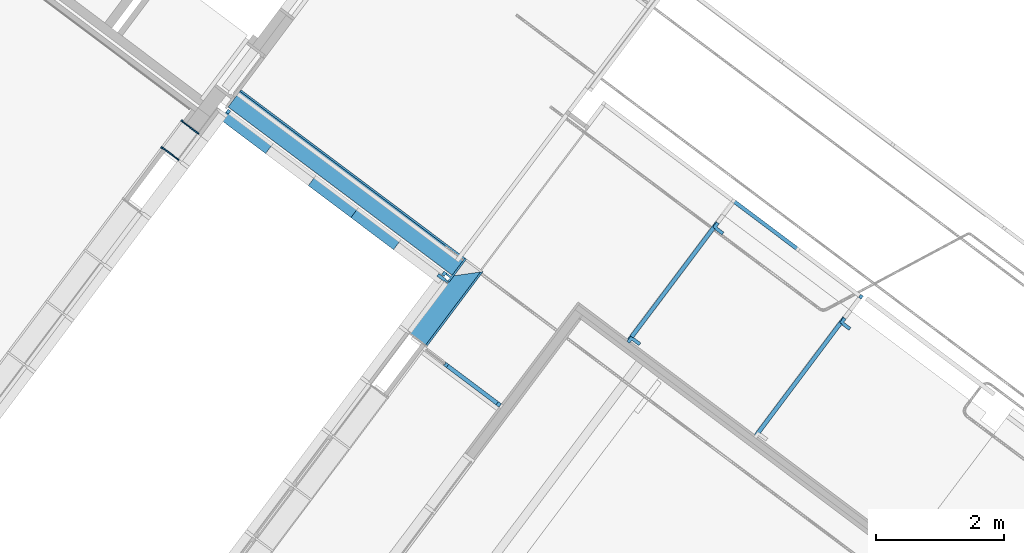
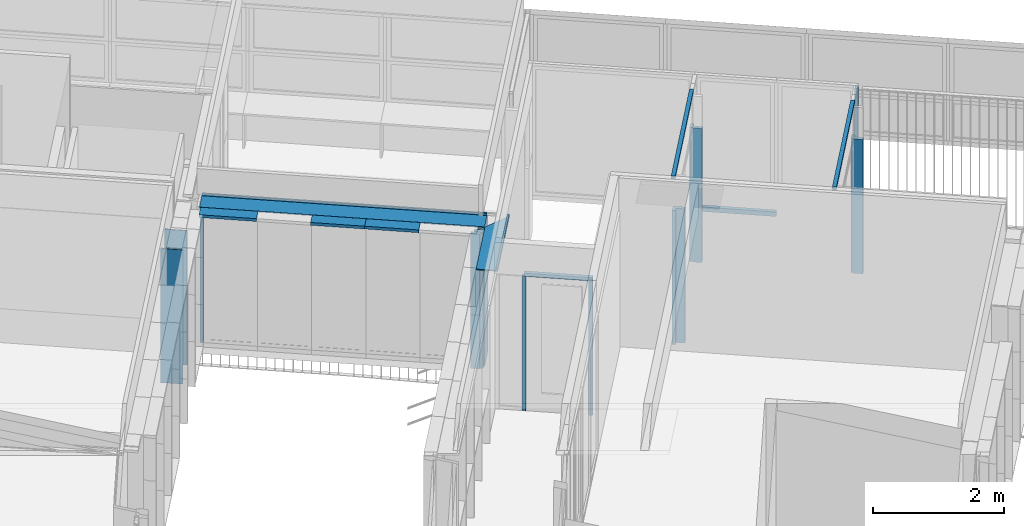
# One storey, part 69 of 243: 22 members, 9 elements without a shape of their own.
"""IFC2X3 building model written with IfcOpenShell, lengths in metres."""

from ifc_helpers import new_model, entity, si_unit, converted_unit, derived_unit, direction, frame, frame_2d, origin, place, context, subcontext, project, spatial, polyline, rectangle, outline, extrude, clip, halfspace, source, transform, mapped, material, type_object, type_shapes, element, aggregate, save


model = new_model("IFC2X3")

# Units and contexts
model_context = context("Model", 3, precision=1e-05, world=origin(), true_north=direction((6.123031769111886e-17, 1.0)))
body_context = subcontext(model_context, "Body", "Model", "MODEL_VIEW")
ifc_project = project(units=[si_unit("LENGTHUNIT", "METRE"), si_unit("AREAUNIT", "SQUARE_METRE"), si_unit("VOLUMEUNIT", "CUBIC_METRE"), converted_unit("PLANEANGLEUNIT", "DEGREE", entity("IfcRatioMeasure", 0.017453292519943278), si_unit("PLANEANGLEUNIT", "RADIAN"), dimensions=[0, 0, 0, 0, 0, 0, 0]), si_unit("MASSUNIT", "GRAM", prefix="KILO"), derived_unit("MASSDENSITYUNIT", [(si_unit("MASSUNIT", "GRAM", prefix="KILO"), 1), (si_unit("LENGTHUNIT", "METRE"), -3)]), derived_unit("IONCONCENTRATIONUNIT", [(si_unit("MASSUNIT", "GRAM", prefix="KILO"), 1), (si_unit("LENGTHUNIT", "METRE"), -3)]), derived_unit("MOMENTOFINERTIAUNIT", [(si_unit("LENGTHUNIT", "METRE"), 4)]), si_unit("TIMEUNIT", "SECOND"), si_unit("FREQUENCYUNIT", "HERTZ"), si_unit("THERMODYNAMICTEMPERATUREUNIT", "DEGREE_CELSIUS"), derived_unit("THERMALTRANSMITTANCEUNIT", [(si_unit("MASSUNIT", "GRAM", prefix="KILO"), 1), (si_unit("THERMODYNAMICTEMPERATUREUNIT", "KELVIN"), -1), (si_unit("TIMEUNIT", "SECOND"), -3)]), derived_unit("THERMALCONDUCTANCEUNIT", [(si_unit("MASSUNIT", "GRAM", prefix="KILO"), 1), (si_unit("THERMODYNAMICTEMPERATUREUNIT", "KELVIN"), -1), (si_unit("TIMEUNIT", "SECOND"), -3), (si_unit("LENGTHUNIT", "METRE"), 1)]), derived_unit("VOLUMETRICFLOWRATEUNIT", [(si_unit("LENGTHUNIT", "METRE"), 3), (si_unit("TIMEUNIT", "SECOND"), -1)]), derived_unit("MASSFLOWRATEUNIT", [(si_unit("MASSUNIT", "GRAM", prefix="KILO"), 1), (si_unit("TIMEUNIT", "SECOND"), -1)]), derived_unit("ROTATIONALFREQUENCYUNIT", [(si_unit("TIMEUNIT", "SECOND"), -1)]), si_unit("ELECTRICCURRENTUNIT", "AMPERE"), si_unit("ELECTRICVOLTAGEUNIT", "VOLT"), si_unit("POWERUNIT", "WATT"), si_unit("FORCEUNIT", "NEWTON", prefix="KILO"), si_unit("ILLUMINANCEUNIT", "LUX"), si_unit("LUMINOUSFLUXUNIT", "LUMEN"), si_unit("LUMINOUSINTENSITYUNIT", "CANDELA"), derived_unit("USERDEFINED", [(si_unit("MASSUNIT", "GRAM", prefix="KILO"), -1), (si_unit("LENGTHUNIT", "METRE"), -2), (si_unit("TIMEUNIT", "SECOND"), 3), (si_unit("LUMINOUSFLUXUNIT", "LUMEN"), 1)]), derived_unit("USERDEFINED", [(si_unit("MASSUNIT", "GRAM", prefix="KILO"), 1), (si_unit("TIMEUNIT", "SECOND"), -3), (si_unit("LENGTHUNIT", "METRE"), 3), (si_unit("ELECTRICCURRENTUNIT", "AMPERE"), -2)]), derived_unit("SOUNDPOWERUNIT", [(si_unit("MASSUNIT", "GRAM", prefix="KILO"), 1), (si_unit("TIMEUNIT", "SECOND"), -3), (si_unit("LENGTHUNIT", "METRE"), 2)]), derived_unit("SOUNDPRESSUREUNIT", [(si_unit("MASSUNIT", "GRAM", prefix="KILO"), 1), (si_unit("LENGTHUNIT", "METRE"), -1), (si_unit("TIMEUNIT", "SECOND"), -2)]), derived_unit("LINEARVELOCITYUNIT", [(si_unit("LENGTHUNIT", "METRE"), 1), (si_unit("TIMEUNIT", "SECOND"), -1)]), si_unit("PRESSUREUNIT", "PASCAL"), derived_unit("USERDEFINED", [(si_unit("MASSUNIT", "GRAM", prefix="KILO"), 1), (si_unit("LENGTHUNIT", "METRE"), -2), (si_unit("TIMEUNIT", "SECOND"), -2)]), derived_unit("LINEARFORCEUNIT", [(si_unit("MASSUNIT", "GRAM", prefix="KILO"), 1), (si_unit("TIMEUNIT", "SECOND"), -2)]), derived_unit("PLANARFORCEUNIT", [(si_unit("MASSUNIT", "GRAM", prefix="KILO"), 1), (si_unit("LENGTHUNIT", "METRE"), -1), (si_unit("TIMEUNIT", "SECOND"), -2)]), derived_unit("SPECIFICHEATCAPACITYUNIT", [(si_unit("THERMODYNAMICTEMPERATUREUNIT", "KELVIN"), -1), (si_unit("LENGTHUNIT", "METRE"), 2), (si_unit("TIMEUNIT", "SECOND"), -2)]), derived_unit("HEATINGVALUEUNIT", [(si_unit("LENGTHUNIT", "METRE"), 2), (si_unit("TIMEUNIT", "SECOND"), -2)]), derived_unit("VAPORPERMEABILITYUNIT", [(si_unit("LENGTHUNIT", "METRE"), -1), (si_unit("TIMEUNIT", "SECOND"), 1)]), derived_unit("DYNAMICVISCOSITYUNIT", [(si_unit("MASSUNIT", "GRAM", prefix="KILO"), 1), (si_unit("TIMEUNIT", "SECOND"), -1), (si_unit("LENGTHUNIT", "METRE"), -1)]), derived_unit("THERMALEXPANSIONCOEFFICIENTUNIT", [(si_unit("THERMODYNAMICTEMPERATUREUNIT", "KELVIN"), -1)]), derived_unit("MODULUSOFELASTICITYUNIT", [(si_unit("MASSUNIT", "GRAM", prefix="KILO"), 1), (si_unit("LENGTHUNIT", "METRE"), -1), (si_unit("TIMEUNIT", "SECOND"), -2)]), derived_unit("ISOTHERMALMOISTURECAPACITYUNIT", [(si_unit("LENGTHUNIT", "METRE"), 3), (si_unit("MASSUNIT", "GRAM", prefix="KILO"), -1)]), derived_unit("MOISTUREDIFFUSIVITYUNIT", [(si_unit("TIMEUNIT", "SECOND"), -1), (si_unit("LENGTHUNIT", "METRE"), 2)])], contexts=[model_context])

# Site, building, storey
site_placement = place(None, frame((0.0, 0.0, 235.0), z_axis=(0.0, 0.0, 1.0), x_axis=(-0.7996477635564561, 0.6004693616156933, 0.0)))
site = spatial("IfcSite", under=ifc_project, at=site_placement, Name="Default", CompositionType="ELEMENT")
building_placement = place(site_placement, origin())
building = spatial("IfcBuilding", under=site, at=building_placement, CompositionType="ELEMENT")
storey_placement = place(building_placement, origin())
storey = spatial("IfcBuildingStorey", under=building, at=storey_placement, Name="P0- Escola", CompositionType="ELEMENT", Elevation=0.0)

# Curtain wall, members
curtain_wall_type_1 = type_object("IfcCurtainWallType", Name="Muro cortina:MC- INT- k7- Aules infantil", PredefinedType="NOTDEFINED")
curtain_wall_1_placement = place(storey_placement, origin())
curtain_wall_1 = element("IfcCurtainWall", 1, at=curtain_wall_1_placement, inside=storey, type_object=curtain_wall_type_1, Name="Muro cortina:MC- INT- k7- Aules infantil", ObjectType="Muro cortina:MC- INT- k7- Aules infantil")
ifc_material_1 = material(Name="_Fusta massisa- T1")
member_type_1 = type_object("IfcMemberType", Name="Montante rectangular:MC- Fusta- 35x3 cm- Pati aules- Remat esquerra", PredefinedType="MULLION", material=ifc_material_1)
shared_shape_1 = source(origin(), body_context, "Body", "SweptSolid", [
    extrude(outline(polyline([(0.09500000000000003, -0.013333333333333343), (0.12500000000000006, -0.013333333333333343), (0.12500000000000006, 0.01666666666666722), (-0.22000000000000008, 0.016666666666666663), (-0.22000000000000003, -0.0033333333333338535), (0.09499999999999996, -0.003333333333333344), (0.09500000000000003, -0.013333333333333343)])), frame((-0.0016666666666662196, 0.03000000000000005, -2.504999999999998), z_axis=(0.0, 0.0, 1.0), x_axis=(0.0, -1.0, 0.0)), (0.0, 0.0, 1.0), 2.5049999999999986),
])
type_shapes(member_type_1, [shared_shape_1])
member_1_placement = place(curtain_wall_1_placement, frame((41.345147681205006, -35.415191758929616, 0.0), z_axis=(0.0, 0.0, -1.0), x_axis=(0.0, -1.0, 0.0)))
member_1 = element("IfcMember", 2, at=member_1_placement, type_object=member_type_1, material=ifc_material_1, Name="Montante rectangular:MC- Fusta- 35x3 cm- Pati aules- Remat esquerra", ObjectType="Montante rectangular:MC- Fusta- 35x3 cm- Pati aules- Remat esquerra", context=body_context, shape_type="MappedRepresentation", body=[
    mapped(shared_shape_1, transform((0.0, 0.0, 0.0), scale=1.0)),
])
member_type_2 = type_object("IfcMemberType", Name="Montante rectangular:MC- Fusta- 35x3 cm- Pati aules- Remat dreta", PredefinedType="MULLION", material=ifc_material_1)
shared_shape_2 = source(origin(), body_context, "Body", "SweptSolid", [
    extrude(outline(polyline([(-0.22000000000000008, -0.01666666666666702), (0.12500000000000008, -0.01666666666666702), (0.12500000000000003, 0.013333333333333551), (0.09500000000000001, 0.013333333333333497), (0.09499999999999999, 0.003333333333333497), (-0.22, 0.003333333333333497), (-0.22000000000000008, -0.01666666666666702)])), frame((-0.013333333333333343, 0.030000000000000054, -2.504999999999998), z_axis=(0.0, 0.0, 1.0), x_axis=(0.0, -1.0, 0.0)), (0.0, 0.0, 1.0), 2.5049999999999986),
])
type_shapes(member_type_2, [shared_shape_2])
member_2_placement = place(curtain_wall_1_placement, frame((41.345147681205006, -35.95318997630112, 0.0), z_axis=(0.0, 0.0, -1.0), x_axis=(0.0, -1.0, 0.0)))
member_2 = element("IfcMember", 3, at=member_2_placement, type_object=member_type_2, material=ifc_material_1, Name="Montante rectangular:MC- Fusta- 35x3 cm- Pati aules- Remat dreta", ObjectType="Montante rectangular:MC- Fusta- 35x3 cm- Pati aules- Remat dreta", context=body_context, shape_type="MappedRepresentation", body=[
    mapped(shared_shape_2, transform((0.0, 0.0, 0.0), scale=1.0)),
])
aggregate(curtain_wall_1, [member_1, member_2])

# Curtain wall, member
curtain_wall_type_2 = type_object("IfcCurtainWallType", Name="Muro cortina:MC- INT- k2", PredefinedType="NOTDEFINED")
curtain_wall_2_placement = place(storey_placement, origin())
curtain_wall_2 = element("IfcCurtainWall", 4, at=curtain_wall_2_placement, inside=storey, type_object=curtain_wall_type_2, Name="Muro cortina:MC- INT- k2", ObjectType="Muro cortina:MC- INT- k2")
member_type_3 = type_object("IfcMemberType", Name="Montante rectangular:MC- Fusta- 35x3 cm- Pati aules- Remat superior", PredefinedType="MULLION", material=ifc_material_1)
shared_shape_3 = source(origin(), body_context, "Body", "SweptSolid", [
    clip(extrude(outline(polyline([(-0.12166666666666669, -0.02666666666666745), (0.21333333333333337, -0.02666666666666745), (0.21333333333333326, -0.006666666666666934), (-0.09166666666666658, -0.006666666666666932), (-0.0916666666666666, 0.03333333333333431), (-0.12166666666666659, 0.03333333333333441), (-0.12166666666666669, -0.02666666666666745)])), frame((-0.033333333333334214, -0.026666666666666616, -1.3699981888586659), z_axis=(0.0, 0.0, 1.0), x_axis=(0.0, -1.0, 0.0)), (0.0, 0.0, 1.0), 1.4649981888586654), halfspace(frame((0.3048, 0.0, 0.0), z_axis=(0.0, -0.7071067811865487, 0.7071067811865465), x_axis=(0.0, -0.7071067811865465, -0.7071067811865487)), False)),
])
type_shapes(member_type_3, [shared_shape_3])
member_3_placement = place(curtain_wall_2_placement, frame((36.34514768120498, -36.78518994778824, 2.565), z_axis=(0.0, -1.0, 0.0), x_axis=(0.0, 0.0, 1.0)))
member_3 = element("IfcMember", 5, at=member_3_placement, type_object=member_type_3, material=ifc_material_1, Name="Montante rectangular:MC- Fusta- 35x3 cm- Pati aules- Remat superior", ObjectType="Montante rectangular:MC- Fusta- 35x3 cm- Pati aules- Remat superior", context=body_context, shape_type="MappedRepresentation", body=[
    mapped(shared_shape_3, transform((0.0, 0.0, 0.0), scale=1.0)),
])
aggregate(curtain_wall_2, [member_3])

# Curtain wall, members
curtain_wall_type_3 = type_object("IfcCurtainWallType", PredefinedType="NOTDEFINED")
curtain_wall_3_placement = place(storey_placement, origin())
curtain_wall_3 = element("IfcCurtainWall", 6, at=curtain_wall_3_placement, inside=storey, type_object=curtain_wall_type_3)
ifc_material_2 = material(Name="_Alumini- T1- Perfil")
member_type_4 = type_object("IfcMemberType", Name="Montante rectangular:MC- Alu- 50x60 cm- Fa pista- Centre", PredefinedType="MULLION", material=ifc_material_2)
shared_shape_4 = source(origin(), body_context, "Body", "SweptSolid", [
    extrude(rectangle(XDim=0.0600000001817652, YDim=0.05, at=frame_2d((5.204170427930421e-18, 0.0), x_axis=(1.0, 0.0))), frame((-0.025, 0.030000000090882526, -2.4150000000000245), z_axis=(0.0, 0.0, 1.0), x_axis=(0.0, -1.0, 0.0)), (0.0, 0.0, 1.0), 2.4150000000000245),
])
type_shapes(member_type_4, [shared_shape_4])
member_4_placement = place(curtain_wall_3_placement, frame((31.270143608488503, -40.14019175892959, 0.6849999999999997), z_axis=(0.0, 0.0, -1.0), x_axis=(-1.0, 0.0, 0.0)))
member_4 = element("IfcMember", 7, at=member_4_placement, type_object=member_type_4, material=ifc_material_2, Name="Montante rectangular:MC- Alu- 50x60 cm- Fa pista- Centre", ObjectType="Montante rectangular:MC- Alu- 50x60 cm- Fa pista- Centre", context=body_context, shape_type="MappedRepresentation", body=[
    mapped(shared_shape_4, transform((0.0, 0.0, 0.0), scale=1.0)),
])
member_type_5 = type_object("IfcMemberType", Name="Montante rectangular:MC- Alu- 52x80 cm- Fa pista- inferior", PredefinedType="MULLION", material=ifc_material_2)
shared_shape_5 = source(origin(), body_context, "Body", "SweptSolid", [
    extrude(rectangle(XDim=0.06000000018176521, YDim=0.08500000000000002, at=frame_2d((-5.204170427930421e-18, -6.938893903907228e-18), x_axis=(1.0, 0.0))), frame((-0.0425, 0.030000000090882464, -1.2575), z_axis=(0.0, 0.0, 1.0), x_axis=(0.0, -1.0, 0.0)), (0.0, 0.0, 1.0), 1.2575),
])
type_shapes(member_type_5, [shared_shape_5])
member_5_placement = place(curtain_wall_3_placement, frame((33.785143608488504, -40.14019175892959, 0.5999999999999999), z_axis=(1.0, 0.0, 0.0), x_axis=(0.0, 0.0, -1.0)))
member_5 = element("IfcMember", 8, at=member_5_placement, type_object=member_type_5, material=ifc_material_2, Name="Montante rectangular:MC- Alu- 52x80 cm- Fa pista- inferior", ObjectType="Montante rectangular:MC- Alu- 52x80 cm- Fa pista- inferior", context=body_context, shape_type="MappedRepresentation", body=[
    mapped(shared_shape_5, transform((0.0, 0.0, 0.0), scale=1.0)),
])
aggregate(curtain_wall_3, [member_4, member_5])

# Curtain wall, member
curtain_wall_type_4 = type_object("IfcCurtainWallType", PredefinedType="NOTDEFINED")
curtain_wall_4_placement = place(storey_placement, origin())
curtain_wall_4 = element("IfcCurtainWall", 9, at=curtain_wall_4_placement, inside=storey, type_object=curtain_wall_type_4)
member_type_6 = type_object("IfcMemberType", Name="Montante rectangular:MC- Alu- 65x52,5 cm- Fa Porxo- Centre", PredefinedType="MULLION", material=ifc_material_2)
shared_shape_6 = source(origin(), body_context, "Body", "SweptSolid", [
    extrude(rectangle(XDim=0.06500000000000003, YDim=0.053000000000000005, at=frame_2d((6.938893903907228e-18, 3.469446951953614e-18), x_axis=(1.0, 0.0))), frame((-0.026500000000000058, 0.032499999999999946, -2.333999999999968), z_axis=(0.0, 0.0, 1.0), x_axis=(0.0, -1.0, 0.0)), (0.0, 0.0, 1.0), 2.333999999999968),
])
type_shapes(member_type_6, [shared_shape_6])
member_6_placement = place(curtain_wall_4_placement, frame((31.271147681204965, -37.35619175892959, 3.150000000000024), z_axis=(0.0, 1.0, 0.0), x_axis=(0.0, 0.0, 1.0)))
member_6 = element("IfcMember", 10, at=member_6_placement, type_object=member_type_6, material=ifc_material_2, Name="Montante rectangular:MC- Alu- 65x52,5 cm- Fa Porxo- Centre", ObjectType="Montante rectangular:MC- Alu- 65x52,5 cm- Fa Porxo- Centre", context=body_context, shape_type="MappedRepresentation", body=[
    mapped(shared_shape_6, transform((0.0, 0.0, 0.0), scale=1.0)),
])

curtain_wall_5_placement = place(storey_placement, origin())
curtain_wall_5 = element("IfcCurtainWall", 11, at=curtain_wall_5_placement, inside=storey, type_object=curtain_wall_type_4)
member_type_7 = type_object("IfcMemberType", Name="Montante rectangular:MC- Alu- 140x52,5 cm- Porta- dreta", PredefinedType="MULLION", material=ifc_material_2)
shared_shape_7 = source(origin(), body_context, "Body", "SweptSolid", [
    extrude(outline(polyline([(-0.022000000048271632, -0.04406250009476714), (0.11699999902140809, -0.04406250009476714), (0.11699999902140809, 0.008437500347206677), (-0.02199999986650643, 0.008437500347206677), (-0.021999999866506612, 0.06843750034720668), (-0.07299999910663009, 0.0684375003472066), (-0.07299999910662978, -0.03281250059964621), (-0.022000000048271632, -0.032812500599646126), (-0.022000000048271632, -0.04406250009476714)])), frame((-0.0684375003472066, -0.022999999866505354, -2.5050000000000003), z_axis=(0.0, 0.0, 1.0), x_axis=(0.0, -1.0, 0.0)), (0.0, 0.0, 1.0), 2.5050000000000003),
])
type_shapes(member_type_7, [shared_shape_7])
member_7_placement = place(curtain_wall_5_placement, frame((33.75114768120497, -37.356191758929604, 0.0), z_axis=(0.0, 0.0, -1.0), x_axis=(0.0, 1.0, 0.0)))
member_7 = element("IfcMember", 12, at=member_7_placement, type_object=member_type_7, material=ifc_material_2, Name="Montante rectangular:MC- Alu- 140x52,5 cm- Porta- dreta", ObjectType="Montante rectangular:MC- Alu- 140x52,5 cm- Porta- dreta", context=body_context, shape_type="MappedRepresentation", body=[
    mapped(shared_shape_7, transform((0.0, 0.0, 0.0), scale=1.0)),
])

# Member
member_type_8 = type_object("IfcMemberType", Name="Montante rectangular:MC- Alu- 140x52,5 cm- Porta- Esquerra", PredefinedType="MULLION", material=ifc_material_2)
shared_shape_8 = source(origin(), body_context, "Body", "SweptSolid", [
    extrude(outline(polyline([(-0.022000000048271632, -0.04406250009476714), (0.11699999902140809, -0.04406250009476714), (0.11699999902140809, 0.008437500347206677), (-0.02199999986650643, 0.008437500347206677), (-0.021999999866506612, 0.06843750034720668), (-0.07299999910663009, 0.0684375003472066), (-0.07299999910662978, -0.03281250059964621), (-0.022000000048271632, -0.032812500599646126), (-0.022000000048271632, -0.04406250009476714)])), frame((-0.0684375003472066, -0.022999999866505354, -2.5050000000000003), z_axis=(0.0, 0.0, 1.0), x_axis=(0.0, -1.0, 0.0)), (0.0, 0.0, 1.0), 2.5050000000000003),
])
type_shapes(member_type_8, [shared_shape_8])
member_8_placement = place(curtain_wall_4_placement, frame((31.271147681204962, -39.69019175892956, 2.5050000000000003), z_axis=(0.0, 0.0, 1.0), x_axis=(0.0, -1.0, 0.0)))
member_8 = element("IfcMember", 13, at=member_8_placement, type_object=member_type_8, material=ifc_material_2, Name="Montante rectangular:MC- Alu- 140x52,5 cm- Porta- Esquerra", ObjectType="Montante rectangular:MC- Alu- 140x52,5 cm- Porta- Esquerra", context=body_context, shape_type="MappedRepresentation", body=[
    mapped(shared_shape_8, transform((0.0, 0.0, 0.0), scale=1.0)),
])

aggregate(curtain_wall_4, [member_6, member_8])

member_9_placement = place(curtain_wall_5_placement, frame((33.75114768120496, -39.69019175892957, 2.5050000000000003), z_axis=(0.0, 0.0, 1.0), x_axis=(0.0, -1.0, 0.0)))
member_9 = element("IfcMember", 14, at=member_9_placement, type_object=member_type_8, material=ifc_material_2, Name="Montante rectangular:MC- Alu- 140x52,5 cm- Porta- Esquerra", ObjectType="Montante rectangular:MC- Alu- 140x52,5 cm- Porta- Esquerra", context=body_context, shape_type="MappedRepresentation", body=[
    mapped(shared_shape_8, transform((0.0, 0.0, 0.0), scale=1.0)),
])

member_type_9 = type_object("IfcMemberType", Name="Montante rectangular:MC- Alu- 65x52,5 cm- Fa Porxo- Centre", PredefinedType="MULLION", material=ifc_material_2)
shared_shape_9 = source(origin(), body_context, "Body", "SweptSolid", [
    extrude(rectangle(XDim=0.06500000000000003, YDim=0.053000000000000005, at=frame_2d((6.938893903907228e-18, 3.469446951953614e-18), x_axis=(1.0, 0.0))), frame((-0.026500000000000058, 0.032499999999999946, -2.333999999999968), z_axis=(0.0, 0.0, 1.0), x_axis=(0.0, -1.0, 0.0)), (0.0, 0.0, 1.0), 2.333999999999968),
])
type_shapes(member_type_9, [shared_shape_9])
member_10_placement = place(curtain_wall_5_placement, frame((33.75114768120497, -37.356191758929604, 3.150000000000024), z_axis=(0.0, 1.0, 0.0), x_axis=(0.0, 0.0, 1.0)))
member_10 = element("IfcMember", 15, at=member_10_placement, type_object=member_type_9, material=ifc_material_2, Name="Montante rectangular:MC- Alu- 65x52,5 cm- Fa Porxo- Centre", ObjectType="Montante rectangular:MC- Alu- 65x52,5 cm- Fa Porxo- Centre", context=body_context, shape_type="MappedRepresentation", body=[
    mapped(shared_shape_9, transform((0.0, 0.0, 0.0), scale=1.0)),
])

aggregate(curtain_wall_5, [member_10, member_7, member_9])

# Curtain wall, members
curtain_wall_type_5 = type_object("IfcCurtainWallType", Name="Muro cortina:MC- EXT- MC5", PredefinedType="NOTDEFINED")
curtain_wall_6_placement = place(storey_placement, origin())
curtain_wall_6 = element("IfcCurtainWall", 16, at=curtain_wall_6_placement, inside=storey, type_object=curtain_wall_type_5, Name="Muro cortina:MC- EXT- MC5", ObjectType="Muro cortina:MC- EXT- MC5")
member_type_10 = type_object("IfcMemberType", Name="Montante rectangular:MC- Alu- 140x52,5 cm- Fa patis- Centre", PredefinedType="MULLION", material=ifc_material_2)
shared_shape_10 = source(origin(), body_context, "Body", "SweptSolid", [
    extrude(outline(polyline([(-0.021999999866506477, -0.026250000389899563), (0.11699999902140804, -0.026250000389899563), (0.11699999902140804, 0.026250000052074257), (-0.02200000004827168, 0.026250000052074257), (-0.02200000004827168, 0.015000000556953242), (-0.07299999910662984, 0.015000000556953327), (-0.07299999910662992, -0.015000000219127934), (-0.021999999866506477, -0.015000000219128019), (-0.021999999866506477, -0.026250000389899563)])), frame((-0.026250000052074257, -0.022999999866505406, -1.0), z_axis=(0.0, 0.0, 1.0), x_axis=(0.0, -1.0, 0.0)), (0.0, 0.0, 1.0), 1.0),
])
type_shapes(member_type_10, [shared_shape_10])
member_11_placement = place(curtain_wall_6_placement, frame((36.64514768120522, -36.44138994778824, -0.02), z_axis=(0.0, 0.0, -1.0), x_axis=(0.0, -1.0, 0.0)))
member_11 = element("IfcMember", 17, at=member_11_placement, type_object=member_type_10, material=ifc_material_2, Name="Montante rectangular:MC- Alu- 140x52,5 cm- Fa patis- Centre", ObjectType="Montante rectangular:MC- Alu- 140x52,5 cm- Fa patis- Centre", context=body_context, shape_type="MappedRepresentation", body=[
    mapped(shared_shape_10, transform((0.0, 0.0, 0.0), scale=1.0)),
])
member_type_11 = type_object("IfcMemberType", Name="Montante rectangular:MC- Alu- 140x52,5 cm- Fa patis- Centre", PredefinedType="MULLION", material=ifc_material_2)
shared_shape_11 = source(origin(), body_context, "Body", "SweptSolid", [
    extrude(outline(polyline([(-0.021999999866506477, -0.026250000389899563), (0.11699999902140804, -0.026250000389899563), (0.11699999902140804, 0.026250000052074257), (-0.02200000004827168, 0.026250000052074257), (-0.02200000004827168, 0.015000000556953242), (-0.07299999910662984, 0.015000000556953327), (-0.07299999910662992, -0.015000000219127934), (-0.021999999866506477, -0.015000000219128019), (-0.021999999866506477, -0.026250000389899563)])), frame((-0.026250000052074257, -0.022999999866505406, -1.5124999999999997), z_axis=(0.0, 0.0, 1.0), x_axis=(0.0, -1.0, 0.0)), (0.0, 0.0, 1.0), 1.5124999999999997),
])
type_shapes(member_type_11, [shared_shape_11])
member_12_placement = place(curtain_wall_6_placement, frame((36.64514768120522, -36.44138994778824, 0.98), z_axis=(0.0, 0.0, -1.0), x_axis=(0.0, -1.0, 0.0)))
member_12 = element("IfcMember", 18, at=member_12_placement, type_object=member_type_11, material=ifc_material_2, Name="Montante rectangular:MC- Alu- 140x52,5 cm- Fa patis- Centre", ObjectType="Montante rectangular:MC- Alu- 140x52,5 cm- Fa patis- Centre", context=body_context, shape_type="MappedRepresentation", body=[
    mapped(shared_shape_11, transform((0.0, 0.0, 0.0), scale=1.0)),
])
aggregate(curtain_wall_6, [member_11, member_12])

curtain_wall_type_6 = type_object("IfcCurtainWallType", Name="Muro cortina:MC- INT- C2", PredefinedType="NOTDEFINED")
curtain_wall_7_placement = place(storey_placement, origin())
curtain_wall_7 = element("IfcCurtainWall", 19, at=curtain_wall_7_placement, inside=storey, type_object=curtain_wall_type_6, Name="Muro cortina:MC- INT- C2", ObjectType="Muro cortina:MC- INT- C2")
member_type_12 = type_object("IfcMemberType", Name="Montante rectangular:MC- Fusta- 6,5x9- Biblio- Neutre", PredefinedType="MULLION", material=ifc_material_1)
shared_shape_12 = source(origin(), body_context, "Body", "SweptSolid", [
    extrude(rectangle(XDim=0.065, YDim=0.059999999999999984, at=frame_2d((-5.204170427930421e-17, 0.0), x_axis=(1.0, 0.0))), frame((-0.02999999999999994, 0.0, -2.5050000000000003), z_axis=(0.0, 0.0, 1.0), x_axis=(0.0, -1.0, 0.0)), (0.0, 0.0, 1.0), 2.5050000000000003),
])
type_shapes(member_type_12, [shared_shape_12])
member_13_placement = place(curtain_wall_7_placement, frame((34.780147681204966, -35.36769175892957, 2.5050000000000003), z_axis=(0.0, 0.0, 1.0), x_axis=(-1.0, 0.0, 0.0)))
member_13 = element("IfcMember", 20, at=member_13_placement, type_object=member_type_12, material=ifc_material_1, Name="Montante rectangular:MC- Fusta- 6,5x9- Biblio- Neutre", ObjectType="Montante rectangular:MC- Fusta- 6,5x9- Biblio- Neutre", context=body_context, shape_type="MappedRepresentation", body=[
    mapped(shared_shape_12, transform((0.0, 0.0, 0.0), scale=1.0)),
])
member_type_13 = type_object("IfcMemberType", Name="Montante rectangular:MC- Fusta- 6,5x9- Biblio- Esquerra", PredefinedType="MULLION", material=ifc_material_1)
shared_shape_13 = source(origin(), body_context, "Body", "SweptSolid", [
    extrude(outline(polyline([(-0.03249999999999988, -0.018749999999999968), (-0.010000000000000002, -0.018749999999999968), (-0.010000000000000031, -0.0037500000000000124), (0.009999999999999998, -0.0037500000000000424), (0.009999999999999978, -0.018750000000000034), (0.03249999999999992, -0.01875000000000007), (0.03250000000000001, 0.04125000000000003), (-0.03249999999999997, 0.041250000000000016), (-0.03249999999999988, -0.018749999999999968)])), frame((-0.04124999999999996, 0.0, -1.0600000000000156), z_axis=(0.0, 0.0, 1.0), x_axis=(0.0, -1.0, 0.0)), (0.0, 0.0, 1.0), 1.0600000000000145),
])
type_shapes(member_type_13, [shared_shape_13])
member_14_placement = place(curtain_wall_7_placement, frame((35.84014768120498, -35.367691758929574, 2.565), z_axis=(1.0, 0.0, 0.0), x_axis=(0.0, 0.0, 1.0)))
member_14 = element("IfcMember", 21, at=member_14_placement, type_object=member_type_13, material=ifc_material_1, Name="Montante rectangular:MC- Fusta- 6,5x9- Biblio- Esquerra", ObjectType="Montante rectangular:MC- Fusta- 6,5x9- Biblio- Esquerra", context=body_context, shape_type="MappedRepresentation", body=[
    mapped(shared_shape_13, transform((0.0, 0.0, 0.0), scale=1.0)),
])
member_type_14 = type_object("IfcMemberType", Name="Montante rectangular:MC- Fusta- 6,5x9- Biblio- Dreta", PredefinedType="MULLION", material=ifc_material_1)
shared_shape_14 = source(origin(), body_context, "Body", "SweptSolid", [
    extrude(outline(polyline([(-0.03249999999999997, -0.04125000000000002), (0.03250000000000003, -0.04125000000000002), (0.03249999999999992, 0.018750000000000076), (0.009999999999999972, 0.018750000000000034), (0.01, 0.0037500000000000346), (-0.010000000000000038, 0.003749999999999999), (-0.010000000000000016, 0.018749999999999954), (-0.03249999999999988, 0.018749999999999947), (-0.03249999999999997, -0.04125000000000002)])), frame((0.011250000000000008, 0.0, -2.5050000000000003), z_axis=(0.0, 0.0, 1.0), x_axis=(0.0, -1.0, 0.0)), (0.0, 0.0, 1.0), 2.5050000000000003),
])
type_shapes(member_type_14, [shared_shape_14])
member_15_placement = place(curtain_wall_7_placement, frame((35.84014768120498, -35.367691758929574, 0.0), z_axis=(0.0, 0.0, -1.0), x_axis=(1.0, 0.0, 0.0)))
member_15 = element("IfcMember", 22, at=member_15_placement, type_object=member_type_14, material=ifc_material_1, Name="Montante rectangular:MC- Fusta- 6,5x9- Biblio- Dreta", ObjectType="Montante rectangular:MC- Fusta- 6,5x9- Biblio- Dreta", context=body_context, shape_type="MappedRepresentation", body=[
    mapped(shared_shape_14, transform((0.0, 0.0, 0.0), scale=1.0)),
])
aggregate(curtain_wall_7, [member_13, member_14, member_15])

curtain_wall_type_7 = type_object("IfcCurtainWallType", Name="Muro cortina:MC- INT- k2", PredefinedType="NOTDEFINED")
curtain_wall_8_placement = place(storey_placement, origin())
curtain_wall_8 = element("IfcCurtainWall", 23, at=curtain_wall_8_placement, inside=storey, type_object=curtain_wall_type_7, Name="Muro cortina:MC- INT- k2", ObjectType="Muro cortina:MC- INT- k2")
member_type_15 = type_object("IfcMemberType", Name="Montante rectangular:MC- Fusta- 35x3 cm- Pati aules- Remat superior", PredefinedType="MULLION", material=ifc_material_1)
shared_shape_15 = source(origin(), body_context, "Body", "SweptSolid", [
    extrude(outline(polyline([(-0.12166666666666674, -0.02666666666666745), (0.21333333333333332, -0.02666666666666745), (0.2133333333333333, -0.006666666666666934), (-0.09166666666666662, -0.006666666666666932), (-0.09166666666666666, 0.03333333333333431), (-0.12166666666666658, 0.03333333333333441), (-0.12166666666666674, -0.02666666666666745)])), frame((-0.033333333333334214, -0.026666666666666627, -4.389999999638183), z_axis=(0.0, 0.0, 1.0), x_axis=(0.0, -1.0, 0.0)), (0.0, 0.0, 1.0), 4.3899999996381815),
])
type_shapes(member_type_15, [shared_shape_15])
member_16_placement = place(curtain_wall_8_placement, frame((40.98014768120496, -36.78518994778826, 2.565), z_axis=(1.0, 0.0, 0.0), x_axis=(0.0, 0.0, 1.0)))
member_16 = element("IfcMember", 24, at=member_16_placement, type_object=member_type_15, material=ifc_material_1, Name="Montante rectangular:MC- Fusta- 35x3 cm- Pati aules- Remat superior", ObjectType="Montante rectangular:MC- Fusta- 35x3 cm- Pati aules- Remat superior", context=body_context, shape_type="MappedRepresentation", body=[
    mapped(shared_shape_15, transform((0.0, 0.0, 0.0), scale=1.0)),
])
member_type_16 = type_object("IfcMemberType", Name="Montante rectangular:MC- Fusta- 45x3 cm- Pati aules- Cantonada", PredefinedType="MULLION", material=ifc_material_1)
shared_shape_16 = source(origin(), body_context, "Body", "SweptSolid", [
    extrude(outline(polyline([(-0.29999999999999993, -0.043750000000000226), (0.15000000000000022, -0.043750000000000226), (0.15000000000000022, -0.01374999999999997), (0.09000000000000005, -0.013749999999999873), (0.08999999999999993, 0.07125000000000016), (0.059999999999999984, 0.0712500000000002), (0.06000000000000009, -0.01374999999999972), (-0.3000000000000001, -0.013750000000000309), (-0.29999999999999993, -0.043750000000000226)])), frame((0.028749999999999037, -0.20500000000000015, -2.5049999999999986), z_axis=(0.0, 0.0, 1.0), x_axis=(0.0, -1.0, 0.0)), (0.0, 0.0, 1.0), 2.5049999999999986),
])
type_shapes(member_type_16, [shared_shape_16])
member_17_placement = place(curtain_wall_8_placement, frame((36.590147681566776, -36.78518994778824, 0.0), z_axis=(0.0, 0.0, -1.0), x_axis=(1.0, 0.0, 0.0)))
member_17 = element("IfcMember", 25, at=member_17_placement, type_object=member_type_16, material=ifc_material_1, Name="Montante rectangular:MC- Fusta- 45x3 cm- Pati aules- Cantonada", ObjectType="Montante rectangular:MC- Fusta- 45x3 cm- Pati aules- Cantonada", context=body_context, shape_type="MappedRepresentation", body=[
    mapped(shared_shape_16, transform((0.0, 0.0, 0.0), scale=1.0)),
])
aggregate(curtain_wall_8, [member_16, member_17])

curtain_wall_type_8 = type_object("IfcCurtainWallType", PredefinedType="NOTDEFINED")
curtain_wall_9_placement = place(storey_placement, origin())
curtain_wall_9 = element("IfcCurtainWall", 26, at=curtain_wall_9_placement, inside=storey, type_object=curtain_wall_type_8)
member_type_17 = type_object("IfcMemberType", Name="Montante rectangular:MC- Alu- 140x52,5 cm- Fa patis- Superior", PredefinedType="MULLION", material=ifc_material_2)
shared_shape_17 = source(origin(), body_context, "Body", "SweptSolid", [
    extrude(outline(polyline([(-0.026333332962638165, -0.021249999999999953), (0.11366666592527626, -0.021249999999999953), (0.11366666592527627, 0.031250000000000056), (-0.08733333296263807, 0.03125000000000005), (-0.0873333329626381, -0.010000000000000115), (-0.026333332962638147, -0.010000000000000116), (-0.026333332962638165, -0.021249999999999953)])), frame((-0.031250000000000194, -0.02733333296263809, -0.885800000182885), z_axis=(0.0, 0.0, 1.0), x_axis=(0.0, -1.0, 0.0)), (0.0, 0.0, 1.0), 0.8858000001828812),
])
type_shapes(member_type_17, [shared_shape_17])
member_18_placement = place(curtain_wall_9_placement, frame((40.96014768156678, -36.455189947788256, 2.545), z_axis=(1.0, 0.0, 0.0), x_axis=(0.0, 0.0, 1.0)))
member_18 = element("IfcMember", 27, at=member_18_placement, type_object=member_type_17, material=ifc_material_2, Name="Montante rectangular:MC- Alu- 140x52,5 cm- Fa patis- Superior", ObjectType="Montante rectangular:MC- Alu- 140x52,5 cm- Fa patis- Superior", context=body_context, shape_type="MappedRepresentation", body=[
    mapped(shared_shape_17, transform((0.0, 0.0, 0.0), scale=1.0)),
])
member_type_18 = type_object("IfcMemberType", Name="Montante rectangular:MC- Alu- 65x52,5 cm- Fa Pati- Porta", PredefinedType="MULLION", material=ifc_material_2)
shared_shape_18 = source(origin(), body_context, "Body", "SweptSolid", [
    extrude(rectangle(XDim=0.06500000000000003, YDim=0.053000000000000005, at=frame_2d((0.0, 3.469446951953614e-18), x_axis=(1.0, 0.0))), frame((-0.026500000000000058, 0.03249999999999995, -2.4274999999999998), z_axis=(0.0, 0.0, 1.0), x_axis=(0.0, -1.0, 0.0)), (0.0, 0.0, 1.0), 2.4274999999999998),
])
type_shapes(member_type_18, [shared_shape_18])
member_19_placement = place(curtain_wall_9_placement, frame((40.96014768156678, -36.455189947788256, 0.06499999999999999), z_axis=(0.0, 0.0, -1.0), x_axis=(1.0, 0.0, 0.0)))
member_19 = element("IfcMember", 28, at=member_19_placement, type_object=member_type_18, material=ifc_material_2, Name="Montante rectangular:MC- Alu- 65x52,5 cm- Fa Pati- Porta", ObjectType="Montante rectangular:MC- Alu- 65x52,5 cm- Fa Pati- Porta", context=body_context, shape_type="MappedRepresentation", body=[
    mapped(shared_shape_18, transform((0.0, 0.0, 0.0), scale=1.0)),
])
member_type_19 = type_object("IfcMemberType", Name="Montante rectangular:MC- Alu- 65x52,5 cm- Fa Pati- Porta", PredefinedType="MULLION", material=ifc_material_2)
shared_shape_19 = source(origin(), body_context, "Body", "SweptSolid", [
    extrude(rectangle(XDim=0.06500000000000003, YDim=0.05300000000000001, at=frame_2d((-6.938893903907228e-18, 0.0), x_axis=(1.0, 0.0))), frame((-0.026499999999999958, 0.032499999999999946, -2.4274999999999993), z_axis=(0.0, 0.0, 1.0), x_axis=(0.0, -1.0, 0.0)), (0.0, 0.0, 1.0), 2.4274999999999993),
])
type_shapes(member_type_19, [shared_shape_19])
member_20_placement = place(curtain_wall_9_placement, frame((36.69014768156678, -36.45518994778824, 2.4924999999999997), z_axis=(0.0, 0.0, 1.0), x_axis=(-1.0, 0.0, 0.0)))
member_20 = element("IfcMember", 29, at=member_20_placement, type_object=member_type_19, material=ifc_material_2, Name="Montante rectangular:MC- Alu- 65x52,5 cm- Fa Pati- Porta", ObjectType="Montante rectangular:MC- Alu- 65x52,5 cm- Fa Pati- Porta", context=body_context, shape_type="MappedRepresentation", body=[
    mapped(shared_shape_19, transform((0.0, 0.0, 0.0), scale=1.0)),
])
member_type_20 = type_object("IfcMemberType", Name="Montante rectangular:MC- Alu- 140x52,5 cm- Fa patis- Superior", PredefinedType="MULLION", material=ifc_material_2)
shared_shape_20 = source(origin(), body_context, "Body", "SweptSolid", [
    extrude(outline(polyline([(-0.026333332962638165, -0.021249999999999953), (0.11366666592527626, -0.021249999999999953), (0.11366666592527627, 0.031250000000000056), (-0.08733333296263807, 0.03125000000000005), (-0.0873333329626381, -0.010000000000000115), (-0.026333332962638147, -0.010000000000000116), (-0.026333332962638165, -0.021249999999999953)])), frame((-0.031250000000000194, -0.02733333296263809, -0.8327999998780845), z_axis=(0.0, 0.0, 1.0), x_axis=(0.0, -1.0, 0.0)), (0.0, 0.0, 1.0), 0.8327999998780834),
])
type_shapes(member_type_20, [shared_shape_20])
member_21_placement = place(curtain_wall_9_placement, frame((38.408747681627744, -36.45518994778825, 2.545), z_axis=(1.0, 0.0, 0.0), x_axis=(0.0, 0.0, 1.0)))
member_21 = element("IfcMember", 30, at=member_21_placement, type_object=member_type_20, material=ifc_material_2, Name="Montante rectangular:MC- Alu- 140x52,5 cm- Fa patis- Superior", ObjectType="Montante rectangular:MC- Alu- 140x52,5 cm- Fa patis- Superior", context=body_context, shape_type="MappedRepresentation", body=[
    mapped(shared_shape_20, transform((0.0, 0.0, 0.0), scale=1.0)),
])
member_22_placement = place(curtain_wall_9_placement, frame((39.24154768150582, -36.45518994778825, 2.545), z_axis=(1.0, 0.0, 0.0), x_axis=(0.0, 0.0, 1.0)))
member_22 = element("IfcMember", 31, at=member_22_placement, type_object=member_type_20, material=ifc_material_2, Name="Montante rectangular:MC- Alu- 140x52,5 cm- Fa patis- Superior", ObjectType="Montante rectangular:MC- Alu- 140x52,5 cm- Fa patis- Superior", context=body_context, shape_type="MappedRepresentation", body=[
    mapped(shared_shape_20, transform((0.0, 0.0, 0.0), scale=1.0)),
])
aggregate(curtain_wall_9, [member_18, member_19, member_20, member_21, member_22])

save(model, "model.ifc")
